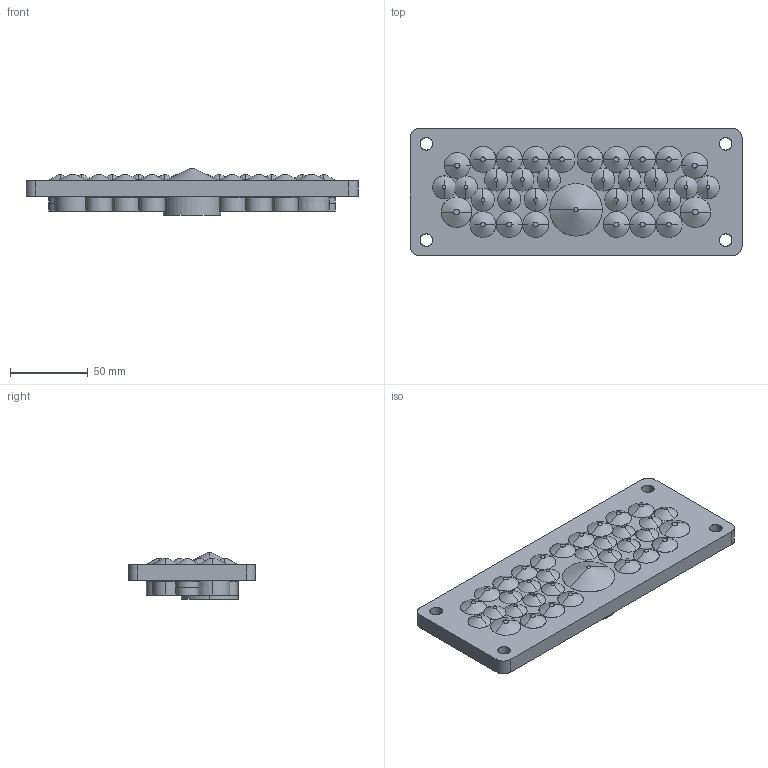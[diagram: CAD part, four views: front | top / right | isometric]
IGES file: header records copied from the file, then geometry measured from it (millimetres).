
Start section: SolidWorks IGES file using analytic representation for surfaces
Global section: file name: C:\Solidworks\omat tuotteet\Space charge models\Multigate\ip65\IGES\100244.IGS; native system: SolidWorks 2012; preprocessor: SolidWorks 2012; author: joni.lehtonen; date: 121211.072250; units: millimetre
Bounding box: 214 x 82 x 30 mm (x, y, z)
Surface area: 65288.4 mm2 (no closed solid volume)
Topology: 0 solids, 0 shells, 558 faces, 10454 edges, 10454 vertices
Faces by surface type: revolution 309, bspline 249
